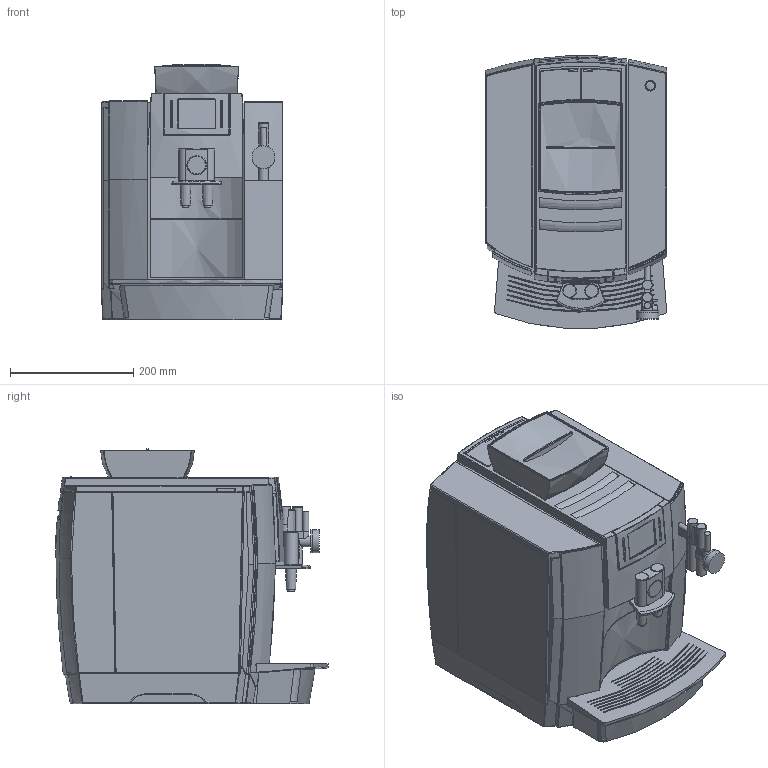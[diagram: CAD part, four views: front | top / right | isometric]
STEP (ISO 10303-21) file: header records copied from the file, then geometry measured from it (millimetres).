
FILE_DESCRIPTION (( 'STEP AP214' ), '1' );
FILE_NAME ('WE8.STEP', '2016-01-26T14:21:22', ( '' ), ( '' ), 'SwSTEP 2.0', 'SolidWorks 2015', '' );
FILE_SCHEMA (( 'AUTOMOTIVE_DESIGN' ));
Length unit declared in the file: millimetre
Products named in the file (1): WE8
Bounding box: 295 x 442.66 x 414.93 mm (x, y, z)
Volume: 37016023.1 mm3; surface area: 816777.7 mm2
Topology: 1 solids, 1 shells, 1438 faces, 3769 edges, 2323 vertices
Faces by surface type: bspline 835, plane 304, cylinder 207, sphere 35, torus 29, cone 28
Full cylindrical faces by diameter (mm): 9.9 x2, 10 x1, 15.31 x1, 15.8 x1, 16 x2, 18 x1, 22 x2, 28.5 x1, 36.978 x2
Entity records: 86034 total; most frequent: CARTESIAN_POINT 58415, ORIENTED_EDGE 7334, EDGE_CURVE 3667, DIRECTION 3228, VERTEX_POINT 2306, B_SPLINE_CURVE_WITH_KNOTS 2168, EDGE_LOOP 1525, FACE_OUTER_BOUND 1455
